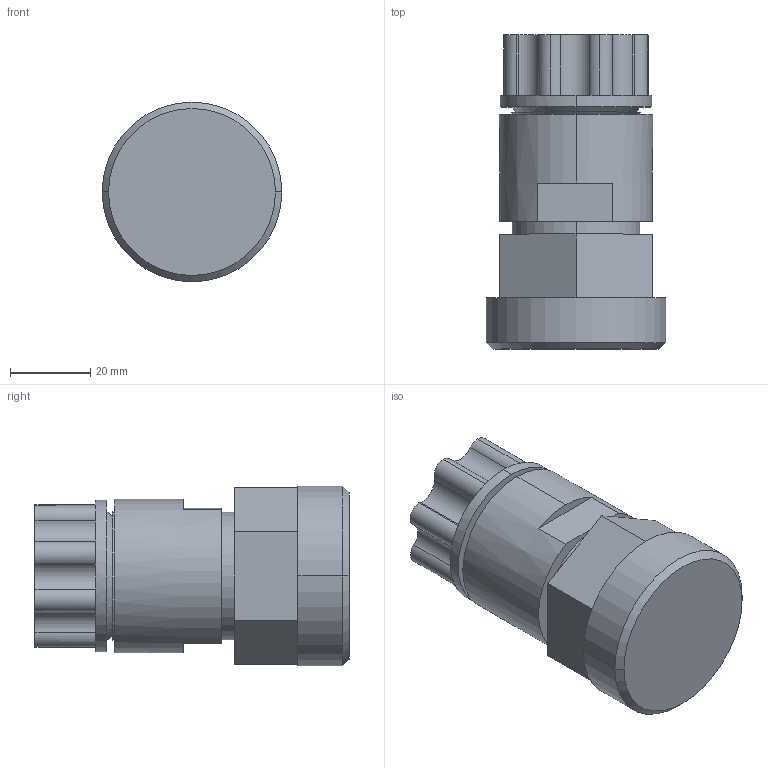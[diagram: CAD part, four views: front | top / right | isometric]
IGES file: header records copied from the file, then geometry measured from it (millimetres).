
Start section: SolidWorks IGES file using analytic representation for surfaces
Global section: file name: S:\Product Visuals\REVISED-60L-TOP-MOUNT-FITTINGS\IGS\synchro-flare\12-synchro-flare-with-top-mount-adapter.IGS; native system: SolidWorks 2012; preprocessor: SolidWorks 2012; author: rachel.dressel; date: 121127.134350; units: inch
Bounding box: 44.7 x 78.1 x 44.7 mm (x, y, z)
Volume: 109492 mm3; surface area: 25278 mm2
Topology: 3 solids, 3 shells, 142 faces, 309 edges, 192 vertices
Faces by surface type: revolution 99, plane 43
